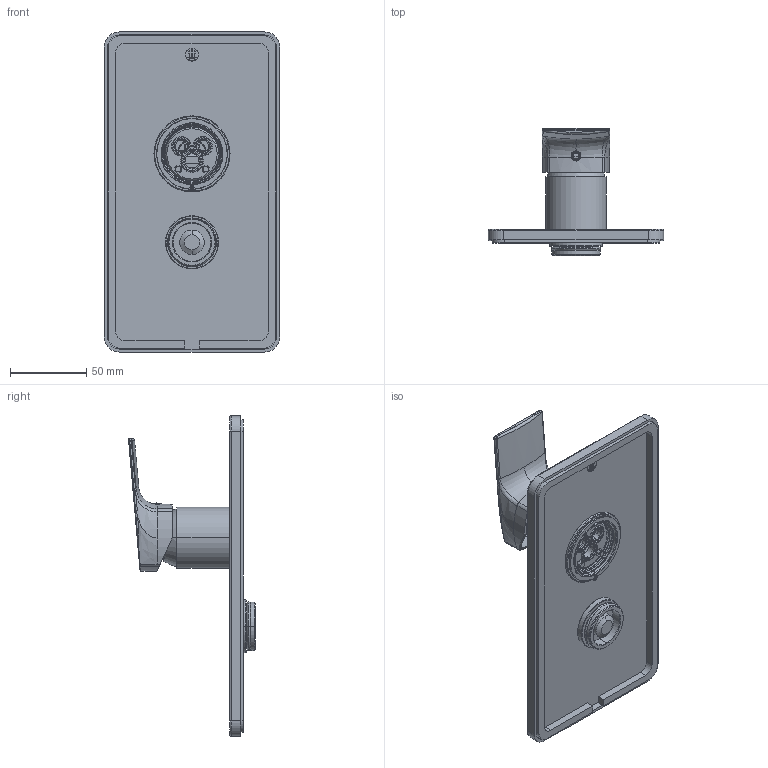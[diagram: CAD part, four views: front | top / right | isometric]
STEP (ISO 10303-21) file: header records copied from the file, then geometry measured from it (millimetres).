
FILE_DESCRIPTION((''),'2;1');
FILE_NAME('75521A_ASM','2025-10-10T14:26:12',('volponeff'),(''),'CREO PARAMETRIC BY PTC INC, 2022014','CREO PARAMETRIC BY PTC INC, 2022014','');
FILE_SCHEMA(('CONFIG_CONTROL_DESIGN'));
Length unit declared in the file: millimetre
Products named in the file (16): D507000563; D451D50353; A503E90162; D496B60233; P507000564_ASM; D465C90185; A302D40038; D460000139; D494C90058; D500001391; D532C90155; A503B60088; P532C90156_ASM; D511000162; A536A80109; 75521A_ASM
Assembly tree (15 placements, depth 3):
  75521A_ASM
    P507000564_ASM
      D507000563
      D451D50353
      A503E90162
      D496B60233
    D465C90185
    A302D40038
    D460000139
    D494C90058
    D500001391
    P532C90156_ASM
      D532C90155
      A503B60088
    D511000162
    A536A80109
Bounding box: 115 x 83.24 x 210 mm (x, y, z)
Volume: 141415 mm3; surface area: 125073.8 mm2
Topology: 14 solids, 23 shells, 1084 faces, 3047 edges, 2017 vertices
Faces by surface type: cylinder 433, plane 378, torus 101, bspline 86, cone 76, sphere 10
Entity records: 50422 total; most frequent: CARTESIAN_POINT 22141, ORIENTED_EDGE 6036, DIRECTION 5797, EDGE_CURVE 3041, AXIS2_PLACEMENT_3D 2206, VERTEX_POINT 2017, VECTOR 1385, LINE 1385
